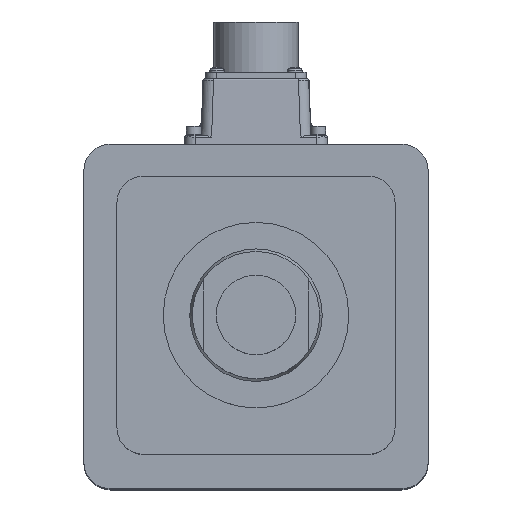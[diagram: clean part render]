
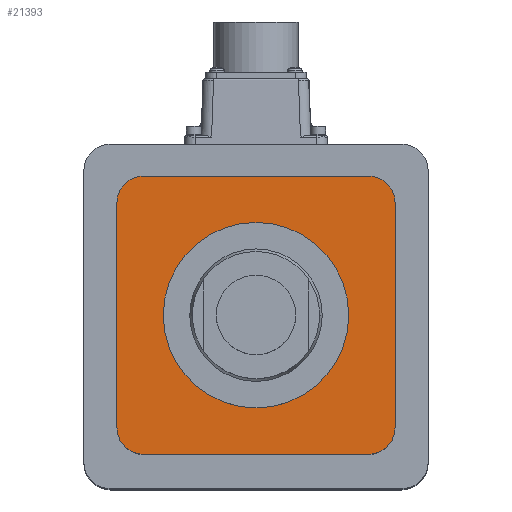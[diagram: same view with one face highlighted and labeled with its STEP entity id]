
A CAD part, top view. The second image highlights one B-rep face of the part: STEP entity #21393.
In plain terms, the highlighted planar face has unit normal (0, 0, 1).
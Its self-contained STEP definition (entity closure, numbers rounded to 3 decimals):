
#437 = EDGE_LOOP ( 'NONE', ( #15822, #2274, #4627, #16626, #28139, #5262, #9559, #19544 ) ) ;
#598 = VERTEX_POINT ( 'NONE', #7663 ) ;
#804 = CIRCLE ( 'NONE', #20584, 35. ) ;
#936 = DIRECTION ( 'NONE',  ( 0., 0., 1. ) ) ;
#1226 = EDGE_CURVE ( 'NONE', #598, #1924, #14401, .T. ) ;
#1688 = CARTESIAN_POINT ( 'NONE',  ( -35., 0., 270. ) ) ;
#1924 = VERTEX_POINT ( 'NONE', #15476 ) ;
#2203 = DIRECTION ( 'NONE',  ( -1., 0., 0. ) ) ;
#2232 = CARTESIAN_POINT ( 'NONE',  ( 0., 0., 270. ) ) ;
#2274 = ORIENTED_EDGE ( 'NONE', *, *, #7070, .T. ) ;
#2755 = EDGE_CURVE ( 'NONE', #12013, #10988, #4080, .T. ) ;
#2766 = CIRCLE ( 'NONE', #13847, 10. ) ;
#3260 = EDGE_CURVE ( 'NONE', #11834, #13818, #5091, .T. ) ;
#3392 = AXIS2_PLACEMENT_3D ( 'NONE', #14685, #8084, #21329 ) ;
#4031 = EDGE_CURVE ( 'NONE', #8518, #12013, #13238, .T. ) ;
#4080 = LINE ( 'NONE', #15697, #15038 ) ;
#4467 = DIRECTION ( 'NONE',  ( 1., 0., 0. ) ) ;
#4627 = ORIENTED_EDGE ( 'NONE', *, *, #3260, .T. ) ;
#4713 = EDGE_CURVE ( 'NONE', #27856, #13394, #16648, .T. ) ;
#5091 = CIRCLE ( 'NONE', #15168, 10. ) ;
#5262 = ORIENTED_EDGE ( 'NONE', *, *, #2755, .T. ) ;
#5814 = ORIENTED_EDGE ( 'NONE', *, *, #4713, .F. ) ;
#6124 = LINE ( 'NONE', #9400, #19151 ) ;
#6301 = DIRECTION ( 'NONE',  ( -1., 0., 0. ) ) ;
#6626 = CARTESIAN_POINT ( 'NONE',  ( 42.5, 52.5, 270. ) ) ;
#6696 = ORIENTED_EDGE ( 'NONE', *, *, #26117, .F. ) ;
#7070 = EDGE_CURVE ( 'NONE', #7166, #11834, #26861, .T. ) ;
#7166 = VERTEX_POINT ( 'NONE', #13401 ) ;
#7569 = DIRECTION ( 'NONE',  ( 1., 0., 0. ) ) ;
#7663 = CARTESIAN_POINT ( 'NONE',  ( 52.5, -42.5, 270. ) ) ;
#7863 = CIRCLE ( 'NONE', #20423, 10. ) ;
#8084 = DIRECTION ( 'NONE',  ( 0., 0., 1. ) ) ;
#8258 = EDGE_LOOP ( 'NONE', ( #5814, #6696 ) ) ;
#8471 = DIRECTION ( 'NONE',  ( 1., 0., 0. ) ) ;
#8518 = VERTEX_POINT ( 'NONE', #22587 ) ;
#9400 = CARTESIAN_POINT ( 'NONE',  ( -52.5, -42.5, 270. ) ) ;
#9559 = ORIENTED_EDGE ( 'NONE', *, *, #17464, .T. ) ;
#9859 = DIRECTION ( 'NONE',  ( 0., 0., 1. ) ) ;
#9990 = FACE_BOUND ( 'NONE', #8258, .T. ) ;
#10679 = CARTESIAN_POINT ( 'NONE',  ( -42.5, 52.5, 270. ) ) ;
#10988 = VERTEX_POINT ( 'NONE', #26972 ) ;
#11834 = VERTEX_POINT ( 'NONE', #10679 ) ;
#11931 = CARTESIAN_POINT ( 'NONE',  ( 35., 0., 270. ) ) ;
#12013 = VERTEX_POINT ( 'NONE', #17749 ) ;
#12374 = VECTOR ( 'NONE', #24002, 1000. ) ;
#13238 = CIRCLE ( 'NONE', #21816, 10. ) ;
#13394 = VERTEX_POINT ( 'NONE', #11931 ) ;
#13401 = CARTESIAN_POINT ( 'NONE',  ( 42.5, 52.5, 270. ) ) ;
#13818 = VERTEX_POINT ( 'NONE', #28141 ) ;
#13847 = AXIS2_PLACEMENT_3D ( 'NONE', #19585, #25846, #8471 ) ;
#14401 = LINE ( 'NONE', #14729, #28523 ) ;
#14685 = CARTESIAN_POINT ( 'NONE',  ( 42.5, 42.5, 270. ) ) ;
#14729 = CARTESIAN_POINT ( 'NONE',  ( 52.5, -42.5, 270. ) ) ;
#15038 = VECTOR ( 'NONE', #22420, 1000. ) ;
#15168 = AXIS2_PLACEMENT_3D ( 'NONE', #20526, #936, #22655 ) ;
#15476 = CARTESIAN_POINT ( 'NONE',  ( 52.5, 42.5, 270. ) ) ;
#15697 = CARTESIAN_POINT ( 'NONE',  ( 42.5, -52.5, 270. ) ) ;
#15822 = ORIENTED_EDGE ( 'NONE', *, *, #21549, .T. ) ;
#16626 = ORIENTED_EDGE ( 'NONE', *, *, #24011, .T. ) ;
#16648 = CIRCLE ( 'NONE', #25161, 35. ) ;
#17464 = EDGE_CURVE ( 'NONE', #10988, #598, #7863, .T. ) ;
#17604 = DIRECTION ( 'NONE',  ( 0., 0., 1. ) ) ;
#17749 = CARTESIAN_POINT ( 'NONE',  ( -42.5, -52.5, 270. ) ) ;
#18785 = DIRECTION ( 'NONE',  ( 0., 1., 0. ) ) ;
#19151 = VECTOR ( 'NONE', #24758, 1000. ) ;
#19500 = CARTESIAN_POINT ( 'NONE',  ( 42.5, -42.5, 270. ) ) ;
#19544 = ORIENTED_EDGE ( 'NONE', *, *, #1226, .T. ) ;
#19585 = CARTESIAN_POINT ( 'NONE',  ( 42.5, 42.5, 270. ) ) ;
#20423 = AXIS2_PLACEMENT_3D ( 'NONE', #19500, #24119, #2203 ) ;
#20526 = CARTESIAN_POINT ( 'NONE',  ( -42.5, 42.5, 270. ) ) ;
#20584 = AXIS2_PLACEMENT_3D ( 'NONE', #2232, #17604, #4467 ) ;
#21329 = DIRECTION ( 'NONE',  ( 1., 0., 0. ) ) ;
#21393 = ADVANCED_FACE ( 'NONE', ( #25116, #9990 ), #27886, .T. ) ;
#21549 = EDGE_CURVE ( 'NONE', #1924, #7166, #2766, .T. ) ;
#21816 = AXIS2_PLACEMENT_3D ( 'NONE', #23859, #28293, #6301 ) ;
#22420 = DIRECTION ( 'NONE',  ( 1., 0., 0. ) ) ;
#22587 = CARTESIAN_POINT ( 'NONE',  ( -52.5, -42.5, 270. ) ) ;
#22655 = DIRECTION ( 'NONE',  ( -1., 0., 0. ) ) ;
#23859 = CARTESIAN_POINT ( 'NONE',  ( -42.5, -42.5, 270. ) ) ;
#24002 = DIRECTION ( 'NONE',  ( -1., 0., 0. ) ) ;
#24011 = EDGE_CURVE ( 'NONE', #13818, #8518, #6124, .T. ) ;
#24119 = DIRECTION ( 'NONE',  ( 0., 0., 1. ) ) ;
#24758 = DIRECTION ( 'NONE',  ( 0., -1., 0. ) ) ;
#25116 = FACE_OUTER_BOUND ( 'NONE', #437, .T. ) ;
#25161 = AXIS2_PLACEMENT_3D ( 'NONE', #25222, #9859, #7569 ) ;
#25222 = CARTESIAN_POINT ( 'NONE',  ( 0., 0., 270. ) ) ;
#25846 = DIRECTION ( 'NONE',  ( 0., 0., 1. ) ) ;
#26117 = EDGE_CURVE ( 'NONE', #13394, #27856, #804, .T. ) ;
#26861 = LINE ( 'NONE', #6626, #12374 ) ;
#26972 = CARTESIAN_POINT ( 'NONE',  ( 42.5, -52.5, 270. ) ) ;
#27856 = VERTEX_POINT ( 'NONE', #1688 ) ;
#27886 = PLANE ( 'NONE',  #3392 ) ;
#28139 = ORIENTED_EDGE ( 'NONE', *, *, #4031, .T. ) ;
#28141 = CARTESIAN_POINT ( 'NONE',  ( -52.5, 42.5, 270. ) ) ;
#28293 = DIRECTION ( 'NONE',  ( 0., 0., 1. ) ) ;
#28523 = VECTOR ( 'NONE', #18785, 1000. ) ;
